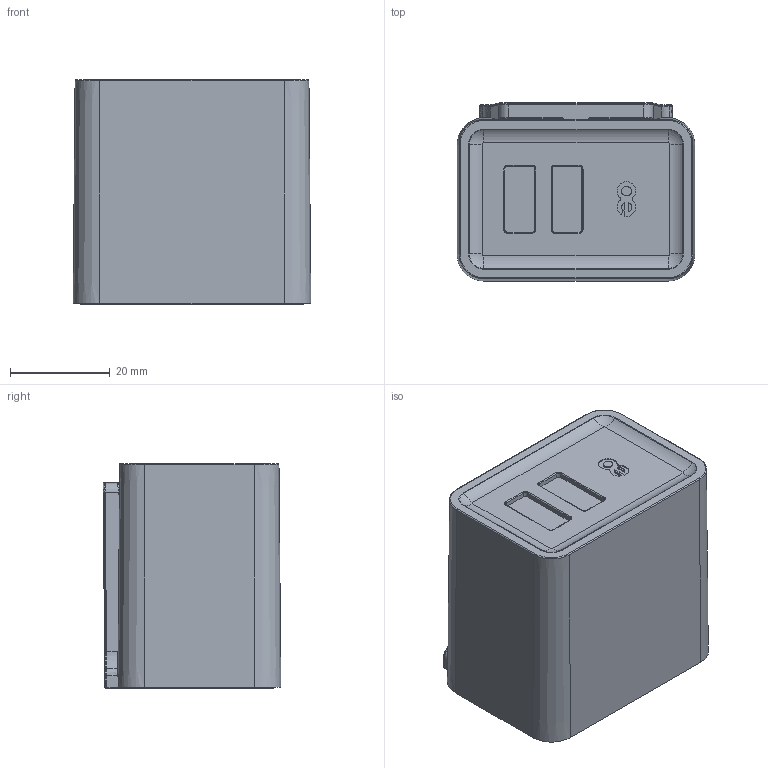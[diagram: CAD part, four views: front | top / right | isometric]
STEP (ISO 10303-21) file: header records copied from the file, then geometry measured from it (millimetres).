
FILE_DESCRIPTION (( 'STEP AP214' ), '1' );
FILE_NAME ('Piccolo-72W.STEP', '2020-10-06T15:43:51', ( '' ), ( '' ), 'SwSTEP 2.0', 'SolidWorks 2019', '' );
FILE_SCHEMA (( 'AUTOMOTIVE_DESIGN' ));
Length unit declared in the file: millimetre
Products named in the file (1): Piccolo-72W
Bounding box: 47.79 x 35.74 x 45.2 mm (x, y, z)
Volume: 68739.1 mm3; surface area: 12392.6 mm2
Topology: 1 solids, 2 shells, 728 faces, 1790 edges, 1072 vertices
Faces by surface type: cylinder 235, plane 216, bspline 200, torus 38, cone 22, sphere 17
Entity records: 26140 total; most frequent: CARTESIAN_POINT 10897, ORIENTED_EDGE 3542, DIRECTION 2752, EDGE_CURVE 1771, VERTEX_POINT 1070, AXIS2_PLACEMENT_3D 971, VECTOR 810, LINE 810
